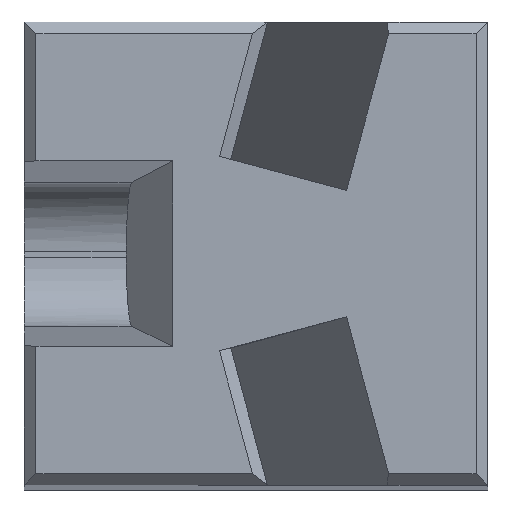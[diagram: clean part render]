
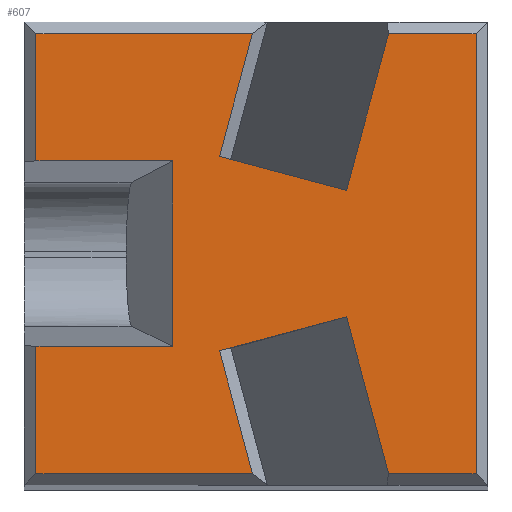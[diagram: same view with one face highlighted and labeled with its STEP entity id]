
A CAD part, top view. The second image highlights one B-rep face of the part: STEP entity #607.
In plain terms, the highlighted planar face has unit normal (0, 0, 1).
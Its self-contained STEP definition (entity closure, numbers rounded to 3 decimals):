
#10 = DIRECTION ( 'NONE',  ( 1., 0., 0. ) ) ;
#20 = DIRECTION ( 'NONE',  ( 0., -1., 0. ) ) ;
#24 = CARTESIAN_POINT ( 'NONE',  ( 9.75, 0., 60. ) ) ;
#31 = ORIENTED_EDGE ( 'NONE', *, *, #862, .F. ) ;
#34 = LINE ( 'NONE', #833, #756 ) ;
#39 = CARTESIAN_POINT ( 'NONE',  ( 0., 9.75, 60. ) ) ;
#45 = VERTEX_POINT ( 'NONE', #896 ) ;
#51 = VECTOR ( 'NONE', #88, 1000. ) ;
#53 = CARTESIAN_POINT ( 'NONE',  ( 4.212, 7.099, 60. ) ) ;
#64 = DIRECTION ( 'NONE',  ( 0., -1., 0. ) ) ;
#79 = ORIENTED_EDGE ( 'NONE', *, *, #487, .T. ) ;
#88 = DIRECTION ( 'NONE',  ( -0.259, 0.966, 0. ) ) ;
#140 = DIRECTION ( 'NONE',  ( 0.259, 0.966, 0. ) ) ;
#151 = CARTESIAN_POINT ( 'NONE',  ( 7.862, 0.25, 60. ) ) ;
#152 = ORIENTED_EDGE ( 'NONE', *, *, #742, .T. ) ;
#154 = LINE ( 'NONE', #402, #1011 ) ;
#160 = DIRECTION ( 'NONE',  ( -1., 0., 0. ) ) ;
#179 = ORIENTED_EDGE ( 'NONE', *, *, #186, .T. ) ;
#186 = EDGE_CURVE ( 'NONE', #502, #825, #485, .T. ) ;
#193 = EDGE_CURVE ( 'NONE', #381, #638, #1134, .T. ) ;
#199 = VECTOR ( 'NONE', #786, 1000. ) ;
#202 = DIRECTION ( 'NONE',  ( 0., 1., 0. ) ) ;
#207 = LINE ( 'NONE', #645, #51 ) ;
#219 = EDGE_CURVE ( 'NONE', #783, #434, #517, .T. ) ;
#232 = ORIENTED_EDGE ( 'NONE', *, *, #734, .T. ) ;
#267 = VERTEX_POINT ( 'NONE', #598 ) ;
#274 = ORIENTED_EDGE ( 'NONE', *, *, #445, .T. ) ;
#276 = ORIENTED_EDGE ( 'NONE', *, *, #329, .T. ) ;
#278 = DIRECTION ( 'NONE',  ( -1., 0., 0. ) ) ;
#281 = CARTESIAN_POINT ( 'NONE',  ( 9.75, 0.25, 60. ) ) ;
#305 = EDGE_CURVE ( 'NONE', #367, #919, #627, .T. ) ;
#316 = CARTESIAN_POINT ( 'NONE',  ( 4.923, 0.25, 60. ) ) ;
#329 = EDGE_CURVE ( 'NONE', #1192, #783, #676, .T. ) ;
#331 = DIRECTION ( 'NONE',  ( -1., 0., 0. ) ) ;
#338 = VERTEX_POINT ( 'NONE', #316 ) ;
#342 = CARTESIAN_POINT ( 'NONE',  ( 9.75, 9.75, 60. ) ) ;
#350 = VECTOR ( 'NONE', #463, 1000. ) ;
#363 = CARTESIAN_POINT ( 'NONE',  ( 3.2, 7., 60. ) ) ;
#367 = VERTEX_POINT ( 'NONE', #410 ) ;
#381 = VERTEX_POINT ( 'NONE', #693 ) ;
#384 = CARTESIAN_POINT ( 'NONE',  ( 3.2, 7., 60. ) ) ;
#399 = VERTEX_POINT ( 'NONE', #986 ) ;
#402 = CARTESIAN_POINT ( 'NONE',  ( 6.955, 6.364, 60. ) ) ;
#403 = VECTOR ( 'NONE', #954, 1000. ) ;
#410 = CARTESIAN_POINT ( 'NONE',  ( 6.955, 6.364, 60. ) ) ;
#417 = LINE ( 'NONE', #720, #1075 ) ;
#434 = VERTEX_POINT ( 'NONE', #342 ) ;
#436 = CARTESIAN_POINT ( 'NONE',  ( 0.25, 0.25, 60. ) ) ;
#445 = EDGE_CURVE ( 'NONE', #638, #338, #1095, .T. ) ;
#449 = DIRECTION ( 'NONE',  ( 0.966, 0.259, 0. ) ) ;
#463 = DIRECTION ( 'NONE',  ( 0., -1., 0. ) ) ;
#468 = CARTESIAN_POINT ( 'NONE',  ( 3.2, 3., 60. ) ) ;
#469 = EDGE_CURVE ( 'NONE', #1055, #399, #886, .T. ) ;
#485 = LINE ( 'NONE', #384, #350 ) ;
#487 = EDGE_CURVE ( 'NONE', #45, #1083, #939, .T. ) ;
#502 = VERTEX_POINT ( 'NONE', #363 ) ;
#505 = ORIENTED_EDGE ( 'NONE', *, *, #513, .T. ) ;
#506 = ORIENTED_EDGE ( 'NONE', *, *, #469, .T. ) ;
#508 = CARTESIAN_POINT ( 'NONE',  ( 2.156, -0.578, 60. ) ) ;
#513 = EDGE_CURVE ( 'NONE', #267, #1187, #417, .T. ) ;
#517 = LINE ( 'NONE', #24, #610 ) ;
#520 = DIRECTION ( 'NONE',  ( 1., 0., 0. ) ) ;
#538 = CARTESIAN_POINT ( 'NONE',  ( 0., 3., 60. ) ) ;
#542 = ORIENTED_EDGE ( 'NONE', *, *, #1102, .T. ) ;
#553 = VECTOR ( 'NONE', #1057, 1000. ) ;
#574 = FACE_OUTER_BOUND ( 'NONE', #582, .T. ) ;
#582 = EDGE_LOOP ( 'NONE', ( #79, #232, #179, #1048, #771, #274, #1066, #505, #542, #276, #1063, #1188, #1160, #31, #506, #152 ) ) ;
#593 = CARTESIAN_POINT ( 'NONE',  ( 0.25, 7., 60. ) ) ;
#594 = VECTOR ( 'NONE', #520, 1000. ) ;
#598 = CARTESIAN_POINT ( 'NONE',  ( 4.212, 2.901, 60. ) ) ;
#607 = ADVANCED_FACE ( 'NONE', ( #574 ), #912, .F. ) ;
#610 = VECTOR ( 'NONE', #202, 1000. ) ;
#627 = LINE ( 'NONE', #774, #926 ) ;
#638 = VERTEX_POINT ( 'NONE', #436 ) ;
#639 = DIRECTION ( 'NONE',  ( -1., 0., 0. ) ) ;
#643 = EDGE_CURVE ( 'NONE', #825, #381, #722, .T. ) ;
#645 = CARTESIAN_POINT ( 'NONE',  ( 4.212, 2.901, 60. ) ) ;
#658 = CARTESIAN_POINT ( 'NONE',  ( 0., 9.75, 60. ) ) ;
#661 = DIRECTION ( 'NONE',  ( 0.966, -0.259, 0. ) ) ;
#676 = LINE ( 'NONE', #974, #403 ) ;
#693 = CARTESIAN_POINT ( 'NONE',  ( 0.25, 3., 60. ) ) ;
#699 = CARTESIAN_POINT ( 'NONE',  ( 0.25, 0., 60. ) ) ;
#720 = CARTESIAN_POINT ( 'NONE',  ( 6.955, 3.636, 60. ) ) ;
#722 = LINE ( 'NONE', #538, #1105 ) ;
#728 = VECTOR ( 'NONE', #278, 1000. ) ;
#734 = EDGE_CURVE ( 'NONE', #1083, #502, #34, .T. ) ;
#742 = EDGE_CURVE ( 'NONE', #399, #45, #950, .T. ) ;
#746 = CARTESIAN_POINT ( 'NONE',  ( 0.25, 0., 60. ) ) ;
#756 = VECTOR ( 'NONE', #10, 1000. ) ;
#770 = AXIS2_PLACEMENT_3D ( 'NONE', #1191, #1015, #639 ) ;
#771 = ORIENTED_EDGE ( 'NONE', *, *, #193, .T. ) ;
#774 = CARTESIAN_POINT ( 'NONE',  ( 6.955, 6.364, 60. ) ) ;
#777 = EDGE_CURVE ( 'NONE', #338, #267, #207, .T. ) ;
#778 = VECTOR ( 'NONE', #20, 1000. ) ;
#783 = VERTEX_POINT ( 'NONE', #281 ) ;
#786 = DIRECTION ( 'NONE',  ( 0.259, 0.966, 0. ) ) ;
#825 = VERTEX_POINT ( 'NONE', #468 ) ;
#830 = LINE ( 'NONE', #39, #1054 ) ;
#833 = CARTESIAN_POINT ( 'NONE',  ( 0., 7., 60. ) ) ;
#861 = CARTESIAN_POINT ( 'NONE',  ( 7.862, 9.75, 60. ) ) ;
#862 = EDGE_CURVE ( 'NONE', #1055, #367, #154, .T. ) ;
#886 = LINE ( 'NONE', #508, #199 ) ;
#896 = CARTESIAN_POINT ( 'NONE',  ( 0.25, 9.75, 60. ) ) ;
#912 = PLANE ( 'NONE',  #770 ) ;
#919 = VERTEX_POINT ( 'NONE', #861 ) ;
#926 = VECTOR ( 'NONE', #140, 1000. ) ;
#939 = LINE ( 'NONE', #699, #1045 ) ;
#950 = LINE ( 'NONE', #658, #728 ) ;
#954 = DIRECTION ( 'NONE',  ( 1., 0., 0. ) ) ;
#974 = CARTESIAN_POINT ( 'NONE',  ( 0., 0.25, 60. ) ) ;
#984 = LINE ( 'NONE', #988, #553 ) ;
#986 = CARTESIAN_POINT ( 'NONE',  ( 4.923, 9.75, 60. ) ) ;
#988 = CARTESIAN_POINT ( 'NONE',  ( 6.955, 3.636, 60. ) ) ;
#1011 = VECTOR ( 'NONE', #661, 1000. ) ;
#1015 = DIRECTION ( 'NONE',  ( 0., 0., -1. ) ) ;
#1045 = VECTOR ( 'NONE', #64, 1000. ) ;
#1048 = ORIENTED_EDGE ( 'NONE', *, *, #643, .T. ) ;
#1054 = VECTOR ( 'NONE', #331, 1000. ) ;
#1055 = VERTEX_POINT ( 'NONE', #53 ) ;
#1057 = DIRECTION ( 'NONE',  ( 0.259, -0.966, 0. ) ) ;
#1063 = ORIENTED_EDGE ( 'NONE', *, *, #219, .T. ) ;
#1066 = ORIENTED_EDGE ( 'NONE', *, *, #777, .T. ) ;
#1070 = EDGE_CURVE ( 'NONE', #434, #919, #830, .T. ) ;
#1075 = VECTOR ( 'NONE', #449, 1000. ) ;
#1083 = VERTEX_POINT ( 'NONE', #593 ) ;
#1092 = CARTESIAN_POINT ( 'NONE',  ( 6.955, 3.636, 60. ) ) ;
#1095 = LINE ( 'NONE', #1176, #594 ) ;
#1102 = EDGE_CURVE ( 'NONE', #1187, #1192, #984, .T. ) ;
#1105 = VECTOR ( 'NONE', #160, 1000. ) ;
#1134 = LINE ( 'NONE', #746, #778 ) ;
#1160 = ORIENTED_EDGE ( 'NONE', *, *, #305, .F. ) ;
#1176 = CARTESIAN_POINT ( 'NONE',  ( 0., 0.25, 60. ) ) ;
#1187 = VERTEX_POINT ( 'NONE', #1092 ) ;
#1188 = ORIENTED_EDGE ( 'NONE', *, *, #1070, .T. ) ;
#1191 = CARTESIAN_POINT ( 'NONE',  ( 0., 0., 60. ) ) ;
#1192 = VERTEX_POINT ( 'NONE', #151 ) ;
